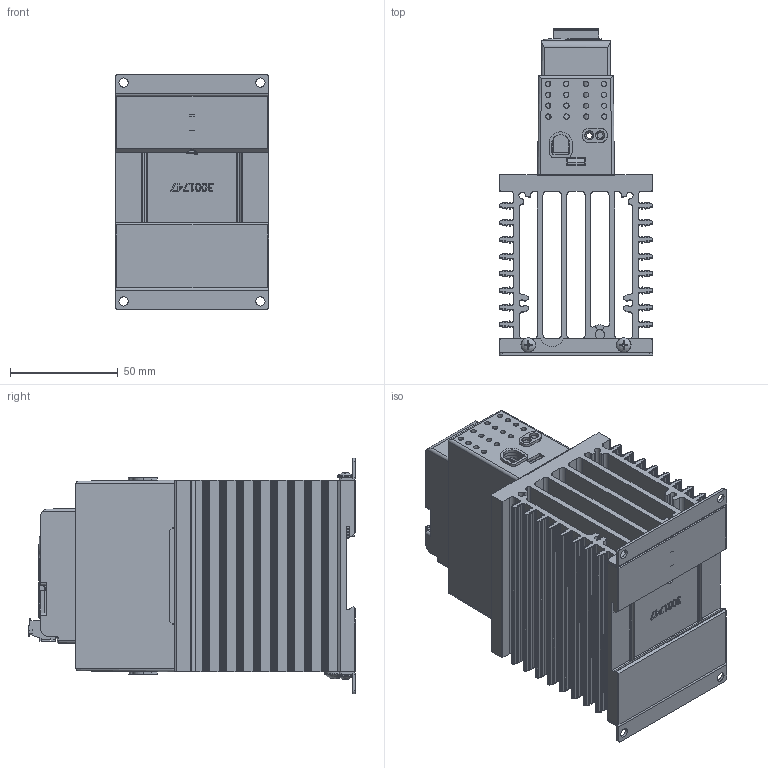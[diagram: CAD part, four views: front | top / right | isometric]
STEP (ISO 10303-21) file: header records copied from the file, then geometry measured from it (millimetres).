
FILE_DESCRIPTION(/* description */ (''),/* implementation_level */ '2;1');
FILE_NAME(/* name */ 'test.stp',/* time_stamp */ '2024-10-29T12:47:48-05:00',/* author */ ('ErikG'),/* organization */ (''),/* preprocessor_version */ 'ST-DEVELOPER v20',/* originating_system */ 'Autodesk Inventor 2025',/* authorisation */ '');
FILE_SCHEMA (('AUTOMOTIVE_DESIGN { 1 0 10303 214 3 1 1 }'));
Products named in the file (25): 3001631e; 3001762; 1001592E; P6; fci 6 pin header OQ06120000J0G; fci 6 pin headerOQ06120000J0G half 1; fci 5 pin header OQ05120000J0G half 2; 0053035-0138-06; P4; P5; usb-c31-s-vt-cs4-bk-pp-t-r-model ADAMTECH; P2; 74990101210 (rev1); base; shielding; 3001759; 3001760; 3001755; 3001756; 3001747; 3001753; 0060002-0632-0375; 0060783-0610-010.ipt; spring; 0060702-1032-0375
Assembly tree (30 placements, depth 5):
  3001631e
    3001762
    1001592E
      P6
        fci 6 pin header OQ06120000J0G
          fci 6 pin headerOQ06120000J0G half 1
          fci 5 pin header OQ05120000J0G half 2
          0053035-0138-06
      P4
        74990101210 (rev1)
          base
          shielding
      P5
        usb-c31-s-vt-cs4-bk-pp-t-r-model ADAMTECH
      P2
        74990101210 (rev1)
          base
          shielding
    3001759
    3001760  x2
    3001755
    3001756
    3001747
    3001753  x2
    0060002-0632-0375  x4
    0060783-0610-010.ipt
    spring
    0060702-1032-0375
Bounding box: 71.12 x 151.78 x 109.22 mm (x, y, z)
Volume: 267417.9 mm3; surface area: 223406.1 mm2
Topology: 25 solids, 115 shells, 6600 faces, 18085 edges, 11823 vertices
Faces by surface type: plane 4700, cylinder 1381, cone 251, bspline 155, torus 90, sphere 23
Full cylindrical faces by diameter (mm): 0.254 x1, 0.45 x2, 0.55 x2, 0.65 x2, 1 x2, 2.3 x12, 2.54 x2, 2.642 x3, 2.95 x6, 3.277 x2, 3.505 x4, 4.318 x8, 4.826 x1, 4.917 x1, 6 x1, 6.172 x1, 6.858 x4, 7.976 x1, 9.474 x1
Entity records: 199360 total; most frequent: CARTESIAN_POINT 49673, ORIENTED_EDGE 31558, DIRECTION 29537, EDGE_CURVE 15779, LINE 11823, VECTOR 11823, VERTEX_POINT 10339, AXIS2_PLACEMENT_3D 8857
